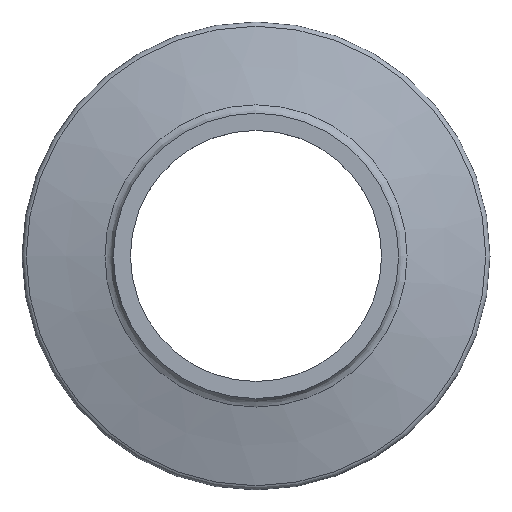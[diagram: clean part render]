
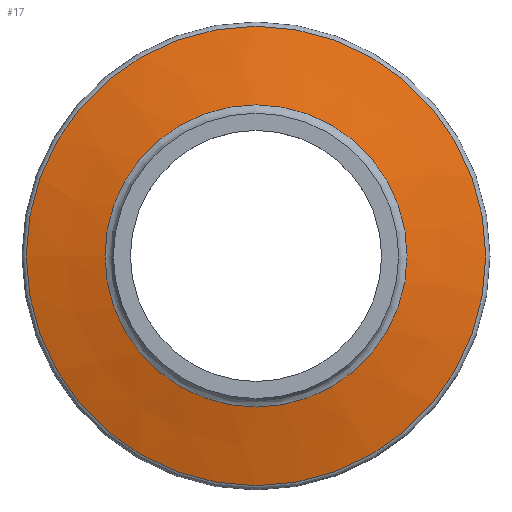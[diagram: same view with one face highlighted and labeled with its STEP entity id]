
A CAD part, top view. The second image highlights one B-rep face of the part: STEP entity #17.
In plain terms, the highlighted conical face has half-angle 75.487 degrees and reference radius 20.125 mm.
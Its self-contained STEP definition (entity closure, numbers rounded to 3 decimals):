
#17 = ADVANCED_FACE('',(#18),#31,.T.);
#18 = FACE_BOUND('',#19,.T.);
#19 = EDGE_LOOP('',(#20,#58,#81,#112));
#20 = ORIENTED_EDGE('',*,*,#21,.T.);
#21 = EDGE_CURVE('',#22,#22,#24,.T.);
#22 = VERTEX_POINT('',#23);
#23 = CARTESIAN_POINT('',(-20.125,0.,0.988));
#24 = SURFACE_CURVE('',#25,(#30,#42),.PCURVE_S1.);
#25 = CIRCLE('',#26,20.125);
#26 = AXIS2_PLACEMENT_3D('',#27,#28,#29);
#27 = CARTESIAN_POINT('',(0.,0.,0.988));
#28 = DIRECTION('',(0.,0.,1.));
#29 = DIRECTION('',(-1.,0.,0.));
#30 = PCURVE('',#31,#36);
#31 = CONICAL_SURFACE('',#32,20.125,1.318);
#32 = AXIS2_PLACEMENT_3D('',#33,#34,#35);
#33 = CARTESIAN_POINT('',(0.,0.,0.988));
#34 = DIRECTION('',(-0.,0.,-1.));
#35 = DIRECTION('',(-1.,0.,0.));
#36 = DEFINITIONAL_REPRESENTATION('',(#37),#41);
#37 = LINE('',#38,#39);
#38 = CARTESIAN_POINT('',(-0.,-0.));
#39 = VECTOR('',#40,1.);
#40 = DIRECTION('',(-1.,-0.));
#41 = ( GEOMETRIC_REPRESENTATION_CONTEXT(2) 
PARAMETRIC_REPRESENTATION_CONTEXT() REPRESENTATION_CONTEXT('2D SPACE',''
  ) );
#42 = PCURVE('',#43,#52);
#43 = SURFACE_OF_REVOLUTION('',#44,#49);
#44 = CIRCLE('',#45,0.5);
#45 = AXIS2_PLACEMENT_3D('',#46,#47,#48);
#46 = CARTESIAN_POINT('',(-20.,0.,0.504));
#47 = DIRECTION('',(0.,-1.,0.));
#48 = DIRECTION('',(1.,0.,0.));
#49 = AXIS1_PLACEMENT('',#50,#51);
#50 = CARTESIAN_POINT('',(0.,0.,0.));
#51 = DIRECTION('',(0.,0.,1.));
#52 = DEFINITIONAL_REPRESENTATION('',(#53),#57);
#53 = LINE('',#54,#55);
#54 = CARTESIAN_POINT('',(0.,1.824));
#55 = VECTOR('',#56,1.);
#56 = DIRECTION('',(1.,0.));
#57 = ( GEOMETRIC_REPRESENTATION_CONTEXT(2) 
PARAMETRIC_REPRESENTATION_CONTEXT() REPRESENTATION_CONTEXT('2D SPACE',''
  ) );
#58 = ORIENTED_EDGE('',*,*,#59,.T.);
#59 = EDGE_CURVE('',#22,#60,#62,.T.);
#60 = VERTEX_POINT('',#61);
#61 = CARTESIAN_POINT('',(-13.233,0.,2.773));
#62 = SEAM_CURVE('',#63,(#67,#74),.PCURVE_S1.);
#63 = LINE('',#64,#65);
#64 = CARTESIAN_POINT('',(-20.125,0.,0.988));
#65 = VECTOR('',#66,1.);
#66 = DIRECTION('',(0.968,0.,0.251));
#67 = PCURVE('',#31,#68);
#68 = DEFINITIONAL_REPRESENTATION('',(#69),#73);
#69 = LINE('',#70,#71);
#70 = CARTESIAN_POINT('',(-0.,-0.));
#71 = VECTOR('',#72,1.);
#72 = DIRECTION('',(-0.,-1.));
#73 = ( GEOMETRIC_REPRESENTATION_CONTEXT(2) 
PARAMETRIC_REPRESENTATION_CONTEXT() REPRESENTATION_CONTEXT('2D SPACE',''
  ) );
#74 = PCURVE('',#31,#75);
#75 = DEFINITIONAL_REPRESENTATION('',(#76),#80);
#76 = LINE('',#77,#78);
#77 = CARTESIAN_POINT('',(-6.283,-0.));
#78 = VECTOR('',#79,1.);
#79 = DIRECTION('',(-0.,-1.));
#80 = ( GEOMETRIC_REPRESENTATION_CONTEXT(2) 
PARAMETRIC_REPRESENTATION_CONTEXT() REPRESENTATION_CONTEXT('2D SPACE',''
  ) );
#81 = ORIENTED_EDGE('',*,*,#82,.F.);
#82 = EDGE_CURVE('',#60,#60,#83,.T.);
#83 = SURFACE_CURVE('',#84,(#89,#96),.PCURVE_S1.);
#84 = CIRCLE('',#85,13.233);
#85 = AXIS2_PLACEMENT_3D('',#86,#87,#88);
#86 = CARTESIAN_POINT('',(0.,0.,2.773));
#87 = DIRECTION('',(0.,0.,1.));
#88 = DIRECTION('',(-1.,0.,0.));
#89 = PCURVE('',#31,#90);
#90 = DEFINITIONAL_REPRESENTATION('',(#91),#95);
#91 = LINE('',#92,#93);
#92 = CARTESIAN_POINT('',(-0.,-1.784));
#93 = VECTOR('',#94,1.);
#94 = DIRECTION('',(-1.,-0.));
#95 = ( GEOMETRIC_REPRESENTATION_CONTEXT(2) 
PARAMETRIC_REPRESENTATION_CONTEXT() REPRESENTATION_CONTEXT('2D SPACE',''
  ) );
#96 = PCURVE('',#97,#106);
#97 = SURFACE_OF_REVOLUTION('',#98,#103);
#98 = CIRCLE('',#99,1.024);
#99 = AXIS2_PLACEMENT_3D('',#100,#101,#102);
#100 = CARTESIAN_POINT('',(-13.489,0.,3.764));
#101 = DIRECTION('',(0.,-1.,0.));
#102 = DIRECTION('',(1.,0.,0.));
#103 = AXIS1_PLACEMENT('',#104,#105);
#104 = CARTESIAN_POINT('',(0.,0.,0.));
#105 = DIRECTION('',(0.,0.,1.));
#106 = DEFINITIONAL_REPRESENTATION('',(#107),#111);
#107 = LINE('',#108,#109);
#108 = CARTESIAN_POINT('',(0.,4.966));
#109 = VECTOR('',#110,1.);
#110 = DIRECTION('',(1.,0.));
#111 = ( GEOMETRIC_REPRESENTATION_CONTEXT(2) 
PARAMETRIC_REPRESENTATION_CONTEXT() REPRESENTATION_CONTEXT('2D SPACE',''
  ) );
#112 = ORIENTED_EDGE('',*,*,#59,.F.);
